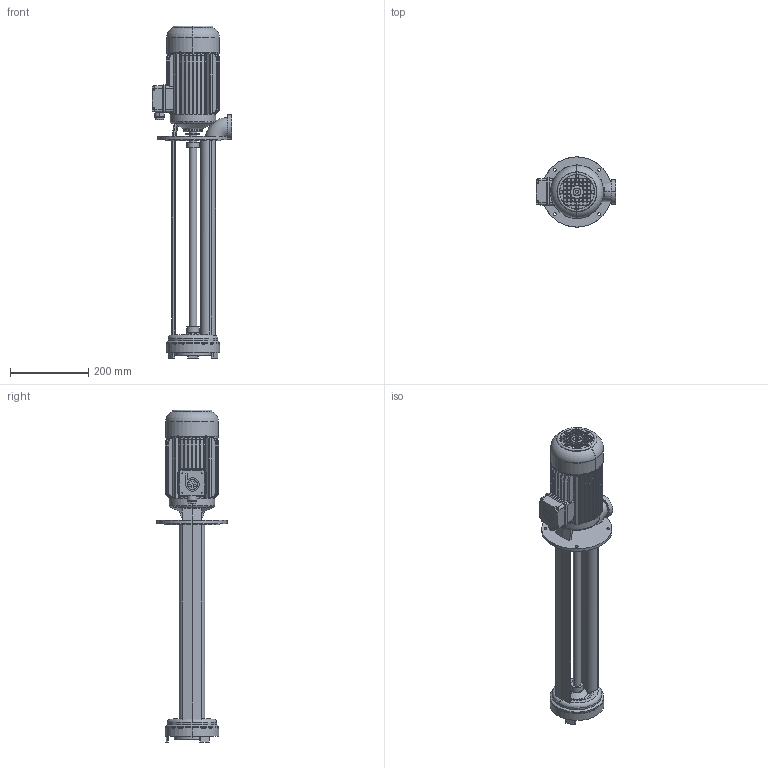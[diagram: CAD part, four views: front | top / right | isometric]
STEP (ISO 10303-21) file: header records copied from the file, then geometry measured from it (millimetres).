
FILE_DESCRIPTION(('no description'),'unknown implementation level');
FILE_NAME('TA600_560_11.stp',' ',('K. H. Brinkmann GmbH & Co. KG'),('CADClick - KiM GmbH - www.kimweb.de'),'unknown preprocess','ACIS','unknown authorization');
FILE_SCHEMA(('automotive_design'));
Length unit declared in the file: millimetre
Products named in the file (5): 1; 2; 3; 4; 5
Bounding box: 205 x 180 x 850.99 mm (x, y, z)
Volume: 4860875.7 mm3; surface area: 663743.5 mm2
Topology: 5 solids, 5 shells, 899 faces, 2472 edges, 1604 vertices
Faces by surface type: plane 460, cylinder 283, torus 112, cone 42, revolution 2
Entity records: 63583 total; most frequent: CARTESIAN_POINT 12978, STYLED_ITEM 4980, PRESENTATION_STYLE_ASSIGNMENT 4980, COLOUR_RGB 4980, ORIENTED_EDGE 4944, DIRECTION 4639, EDGE_CURVE 2472, CURVE_STYLE 2472
